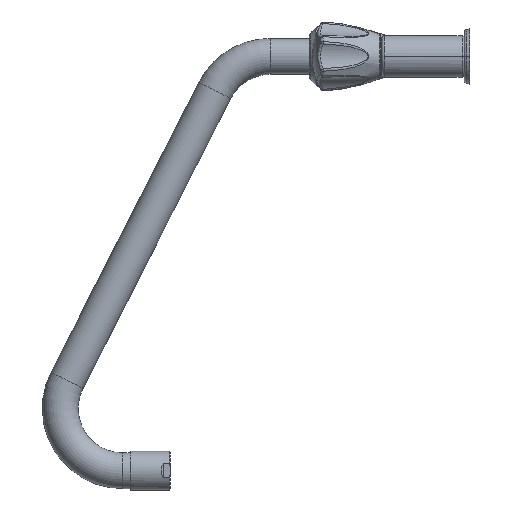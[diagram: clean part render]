
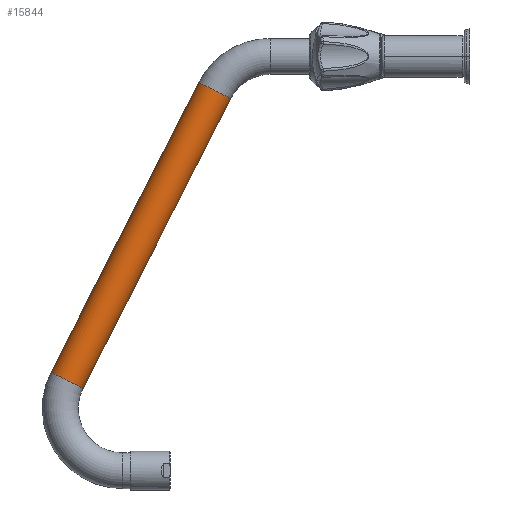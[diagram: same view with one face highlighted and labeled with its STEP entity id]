
A CAD part, left-side view. The second image highlights one B-rep face of the part: STEP entity #15844.
In plain terms, the highlighted cylindrical face has radius 13 mm (diameter 26 mm), a partial arc.
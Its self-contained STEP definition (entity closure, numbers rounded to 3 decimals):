
#5747=DIRECTION('',(0.,0.454,-0.891));
#5748=VECTOR('',#5747,235.7);
#5749=CARTESIAN_POINT('',(0.,196.178,
-18.669));
#5750=LINE('',#5749,#5748);
#5751=CARTESIAN_POINT('',(0.,184.595,
-24.57));
#5752=DIRECTION('',(0.,0.454,-0.891));
#5753=DIRECTION('',(0.,-0.891,-0.454));
#5754=AXIS2_PLACEMENT_3D('',#5751,#5752,#5753);
#5756=DIRECTION('',(0.,0.454,-0.891));
#5757=VECTOR('',#5756,235.7);
#5758=CARTESIAN_POINT('',(0.,173.012,
-30.472));
#5759=LINE('',#5758,#5757);
#5760=CARTESIAN_POINT('',(0.,291.601,
-234.581));
#5761=DIRECTION('',(0.,0.454,-0.891));
#5762=DIRECTION('',(0.,-0.891,-0.454));
#5763=AXIS2_PLACEMENT_3D('',#5760,#5761,#5762);
#6554=CARTESIAN_POINT('',(0.,196.178,
-18.669));
#6555=CARTESIAN_POINT('',(0.,173.012,
-30.472));
#6556=VERTEX_POINT('',#6554);
#6557=VERTEX_POINT('',#6555);
#6558=CARTESIAN_POINT('',(0.,303.184,
-228.679));
#6559=CARTESIAN_POINT('',(0.,280.018,
-240.483));
#6560=VERTEX_POINT('',#6558);
#6561=VERTEX_POINT('',#6559);
#15832=CARTESIAN_POINT('',(0.,184.595,
-24.57));
#15833=DIRECTION('',(0.,0.454,-0.891));
#15834=DIRECTION('',(0.,0.891,0.454));
#15835=AXIS2_PLACEMENT_3D('',#15832,#15833,#15834);
#15836=CYLINDRICAL_SURFACE('',#15835,13.);
#15837=ORIENTED_EDGE('',*,*,#15761,.F.);
#15838=ORIENTED_EDGE('',*,*,#15815,.T.);
#15840=ORIENTED_EDGE('',*,*,#15839,.T.);
#15841=ORIENTED_EDGE('',*,*,#15811,.F.);
#15842=EDGE_LOOP('',(#15837,#15838,#15840,#15841));
#15843=FACE_OUTER_BOUND('',#15842,.F.);
#5755=CIRCLE('',#5754,13.);
#5764=CIRCLE('',#5763,13.);
#15761=EDGE_CURVE('',#6557,#6556,#5755,.T.);
#15811=EDGE_CURVE('',#6556,#6560,#5750,.T.);
#15815=EDGE_CURVE('',#6557,#6561,#5759,.T.);
#15839=EDGE_CURVE('',#6561,#6560,#5764,.T.);
#15844=ADVANCED_FACE('',(#15843),#15836,.T.);
